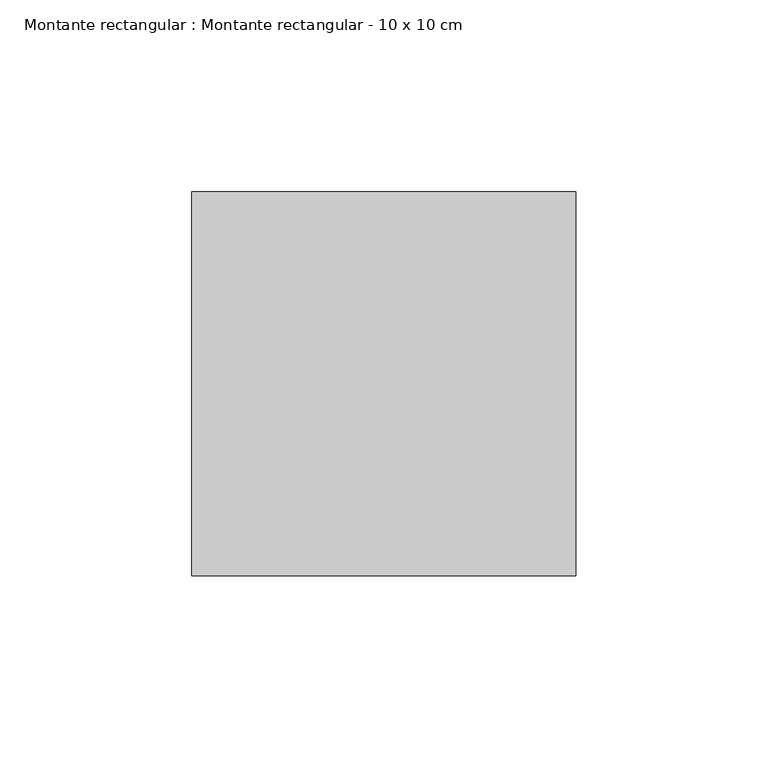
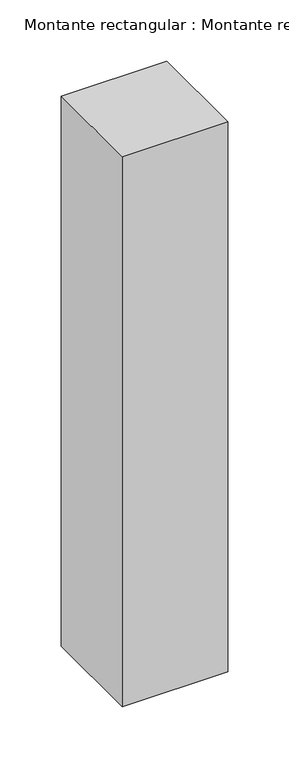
"""IFC4 building model written with IfcOpenShell, lengths in millimetres: member geometry, Montante rectangular : Montante rectangular - 10 x 10 cm."""

from ifc_helpers import new_model, si_unit, frame, origin, place, context, project, spatial, polyline, outline, extrude, source, transform, mapped, element, save


def montante_rectangular_montante_rectangular_10_x_10_cm_09eb8a59(model_context):
    return source(origin(), model_context, "Body", "SweptSolid", [
        extrude(outline(polyline([(-100.0, 50.0), (0.0, 50.0), (0.0, -50.0), (-100.0, -50.0), (-100.0, 50.0)])), frame((0.0, 0.0, -550.0), z_axis=(0.0, 0.0, 1.0), x_axis=(1.0, 0.0, 0.0)), (0.0, 0.0, 1.0), 550.0),
    ])


if __name__ == "__main__":
    model = new_model("IFC4")
    model_context = context("Model", 3, world=origin())
    ifc_project = project(units=[si_unit("LENGTHUNIT", "METRE", prefix="MILLI")], contexts=[model_context])
    site = spatial("IfcSite", under=ifc_project)
    building = spatial("IfcBuilding", under=site)
    placement = place(None, origin())
    montante_rectangular_montante_rectangular_10_x_10_cm_shape = montante_rectangular_montante_rectangular_10_x_10_cm_09eb8a59(model_context)
    element("IfcMember", 1, ObjectType="Montante rectangular : Montante rectangular - 10 x 10 cm", at=placement, inside=building, context=model_context, shape_type="MappedRepresentation", body=[
        mapped(montante_rectangular_montante_rectangular_10_x_10_cm_shape, transform((0.0, 0.0, 0.0), x_axis=(1.0, 0.0, 0.0), y_axis=(0.0, 1.0, 0.0), z_axis=(0.0, 0.0, 1.0))),
    ])
    save(model, "model.ifc")
